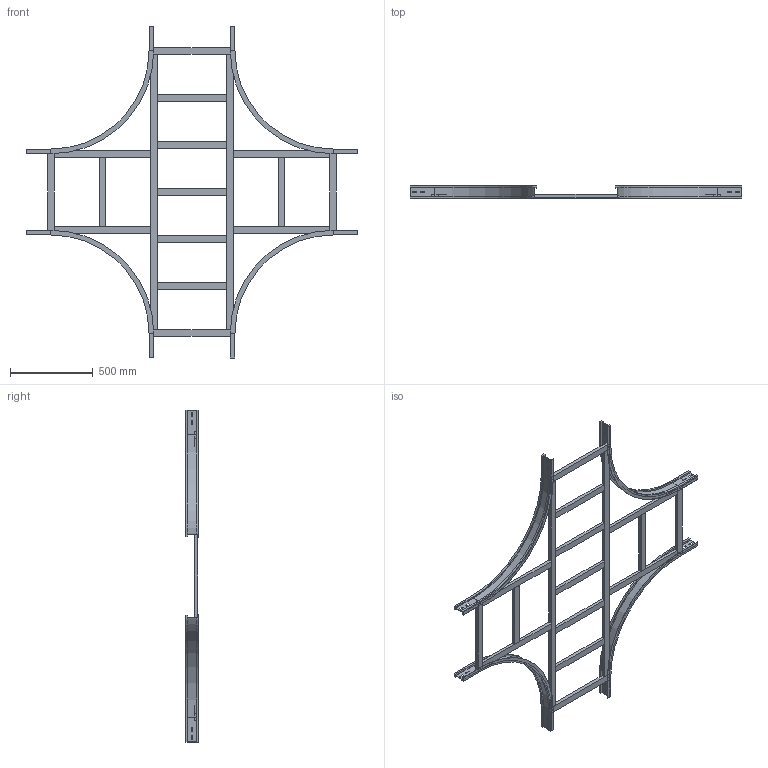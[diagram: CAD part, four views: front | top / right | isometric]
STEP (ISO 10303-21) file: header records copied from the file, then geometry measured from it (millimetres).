
FILE_DESCRIPTION (( 'STEP AP214' ), '1' );
FILE_NAME ('17S6C500.step', '2025-02-21T16:19:09', ( '' ), ( '' ), 'SwSTEP 2.0', 'SolidWorks 2023', '' );
FILE_SCHEMA (( 'AUTOMOTIVE_DESIGN' ));
Length unit declared in the file: millimetre
Products named in the file (7): TRAVERSINO_COPPIA_500; 17S6C500; TRAVERSINO_VERT_R600; TRAVERSINO_INTERMEDIO_X_R600+500; TRAVERSINO_500; LONGH.INTERNO 90°_H75_R600; TRAVERSINO_LONG._R600+500
Assembly tree (21 placements, depth 2):
  17S6C500
    LONGH.INTERNO 90°_H75_R600  x4
    TRAVERSINO_500  x4
    TRAVERSINO_LONG._R600+500  x2
    TRAVERSINO_INTERMEDIO_X_R600+500  x5
    TRAVERSINO_VERT_R600  x4
    TRAVERSINO_COPPIA_500  x2
Bounding box: 2000 x 75 x 2000 mm (x, y, z)
Volume: 10986563.5 mm3; surface area: 2531985.8 mm2
Topology: 21 solids, 21 shells, 318 faces, 732 edges, 456 vertices
Faces by surface type: plane 294, cylinder 24
Entity records: 2652 total; most frequent: CARTESIAN_POINT 420, DIRECTION 420, ORIENTED_EDGE 384, EDGE_CURVE 192, LINE 180, VECTOR 180, VERTEX_POINT 120, AXIS2_PLACEMENT_3D 120
